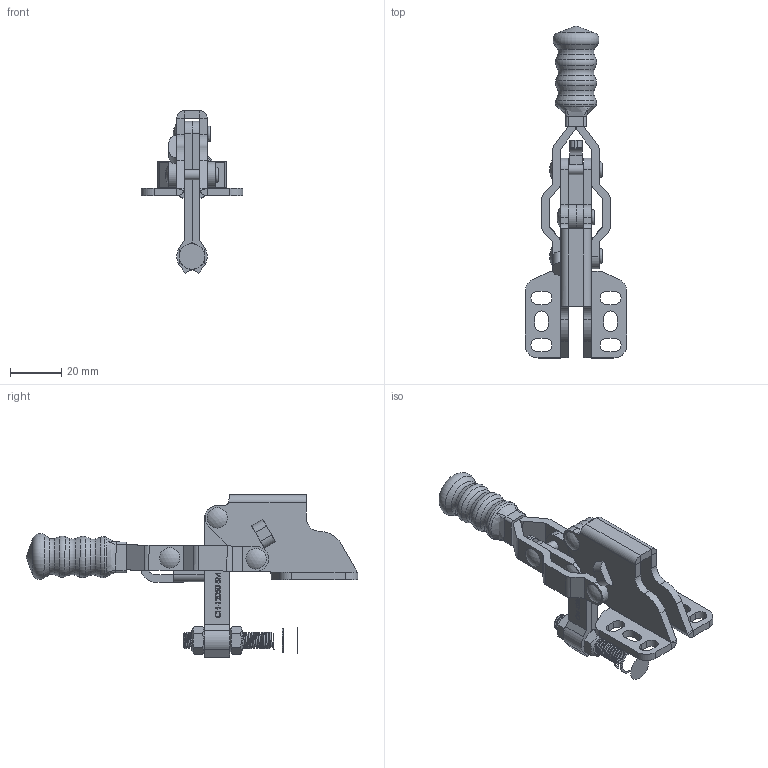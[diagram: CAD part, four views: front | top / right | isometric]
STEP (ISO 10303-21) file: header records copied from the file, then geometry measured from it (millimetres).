
FILE_DESCRIPTION(/* description */ ('STEP AP203'),/* implementation_level */ '2;1');
FILE_NAME(/* name */ 'D:\Vault_2016\Projekty\NASZ KATALOG\CLAMPTEK\STRONA\Vertical toggle clamp\CH-12050-SM\CH-12050-SM_ZAMKNIETY.stp',/* time_stamp */ '2019-01-18T14:36:01+01:00',/* author */ ('CADENGINEERING4'),/* organization */ ('Î¢ÈíÖÐ¹ú'),/* preprocessor_version */ 'ST-DEVELOPER v17.2',/* originating_system */ 'Autodesk Inventor 2019',/* authorisation */ '');
FILE_SCHEMA (('AUTOMOTIVE_DESIGN { 1 0 10303 214 3 1 1 }'));
Products named in the file (10): CH-12050-SM_ZAMKNIETY; CH-12050-SM BASE; CH-12050-SM-02 FIXED SPINDLE; CH-12050-03 STRAIGHT HANDLE; CH-12050-04 CONNECTING-PLATE; CH-12050-06; CH-12050-07; CH-12050-05; CH-12050-SM-07; CH-12050-SM-03
Assembly tree (12 placements, depth 2):
  CH-12050-SM_ZAMKNIETY
    CH-12050-SM BASE
    CH-12050-SM-02 FIXED SPINDLE
    CH-12050-07  x2
    CH-12050-03 STRAIGHT HANDLE
    CH-12050-04 CONNECTING-PLATE
    CH-12050-06  x2
    CH-12050-05
    CH-12050-SM-03  x2
    CH-12050-SM-07
Bounding box: 39.7 x 129.75 x 63.52 mm (x, y, z)
Volume: 29522.5 mm3; surface area: 25636.1 mm2
Topology: 14 solids, 16 shells, 720 faces, 1995 edges, 1339 vertices
Faces by surface type: plane 325, bspline 209, cylinder 141, cone 25, torus 16, sphere 4
Full cylindrical faces by diameter (mm): 1.005 x1, 1.217 x1, 4 x20, 5.1 x6, 6.4 x26
Entity records: 41206 total; most frequent: CARTESIAN_POINT 24485, ORIENTED_EDGE 3798, DIRECTION 2704, EDGE_CURVE 1899, VERTEX_POINT 1275, LINE 1070, VECTOR 1070, AXIS2_PLACEMENT_3D 817
